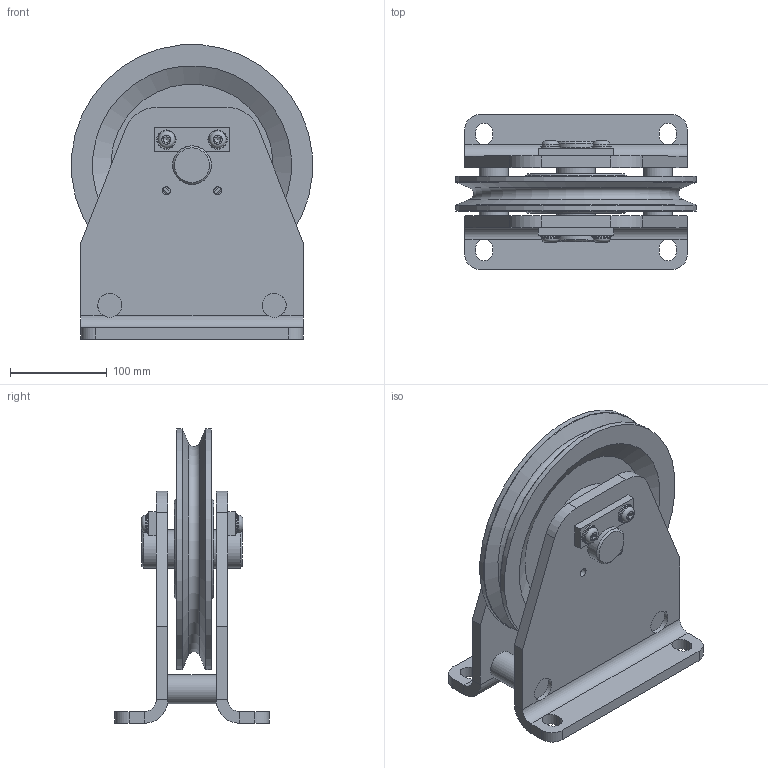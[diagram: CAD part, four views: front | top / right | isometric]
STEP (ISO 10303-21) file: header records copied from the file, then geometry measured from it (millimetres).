
FILE_DESCRIPTION(/* description */ ('Seilrollenbock ø250 Stahl Kugellager komplett'),/* implementation_level */ '2;1');
FILE_NAME(/* name */ 'Z:\Workspace\03 Seilrollen\1.405 K Seilrollenbock Stahl Kugellager\1.405.07 K Seilrollenbock ø250 Stahl Kugellager\1.405.07 K Seilrollenbock ø250 Stahl Kugellager komplett.stp',/* time_stamp */ '2021-10-05T13:06:02+02:00',/* author */ ('cad-user'),/* organization */ (''),/* preprocessor_version */ 'ST-DEVELOPER v18',/* originating_system */ 'Autodesk Inventor 2020',/* authorisation */ '');
FILE_SCHEMA (('AUTOMOTIVE_DESIGN { 1 0 10303 214 3 1 1 }'));
Length unit declared in the file: millimetre
Products named in the file (16): 1.405.07 K Seilrollenbock ø250 Stahl Kugellager komplett; 1.405.07.01 Seilrollenbock Schweißteil; 1.405.07.01 Blech; 1.405.07.01 Distanzachse; 1.402.07 Seilrolle ø250 Kugellager komplett; 1.402.07 Seilrolle ø250 Kugellager; DIN625 - 6208-2RS; din625_-_6208-2rs_0_05; din625_-_6208-2rs_0_04; din625_-_6208-2rs_0_03; din625_-_6208-2rs_0_02; din625_-_6208-2rs_0_01; 1.405.07.03 Lasche; 1.405.07.02 Achse; DIN 125-1 - B 10,5; ISO 7380 - M10 x 20
Assembly tree (25 placements, depth 4):
  1.405.07 K Seilrollenbock ø250 Stahl Kugellager komplett
    1.405.07.01 Seilrollenbock Schweißteil
      1.405.07.01 Blech  x2
      1.405.07.01 Distanzachse  x2
    1.402.07 Seilrolle ø250 Kugellager komplett
      1.402.07 Seilrolle ø250 Kugellager
      DIN625 - 6208-2RS  x2
        din625_-_6208-2rs_0_05
        din625_-_6208-2rs_0_04
        din625_-_6208-2rs_0_03
        din625_-_6208-2rs_0_02
        din625_-_6208-2rs_0_01
    1.405.07.03 Lasche  x2
    1.405.07.02 Achse
    DIN 125-1 - B 10,5  x4
    ISO 7380 - M10 x 20  x4
Bounding box: 249.17 x 160 x 304.59 mm (x, y, z)
Volume: 2572381.8 mm3; surface area: 512355.5 mm2
Topology: 26 solids, 26 shells, 315 faces, 865 edges, 604 vertices
Faces by surface type: plane 140, cylinder 96, torus 41, cone 20, sphere 18
Full cylindrical faces by diameter (mm): 8.376 x8, 10 x4, 10.5 x4, 11 x2, 12 x2, 17.5 x4, 20 x4, 25 x8, 30 x2, 40 x5, 48 x8, 52 x4, 68 x4, 70 x1, 71.2 x8, 80 x4, 105 x2, 250 x2
Entity records: 6414 total; most frequent: CARTESIAN_POINT 1579, DIRECTION 979, ORIENTED_EDGE 822, AXIS2_PLACEMENT_3D 419, EDGE_CURVE 411, VERTEX_POINT 302, CIRCLE 223, EDGE_LOOP 213
